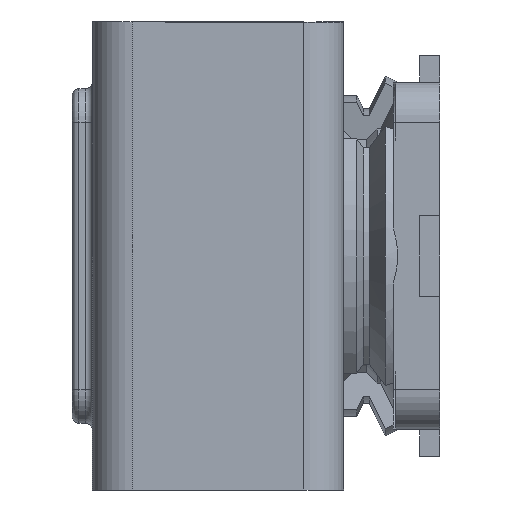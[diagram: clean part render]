
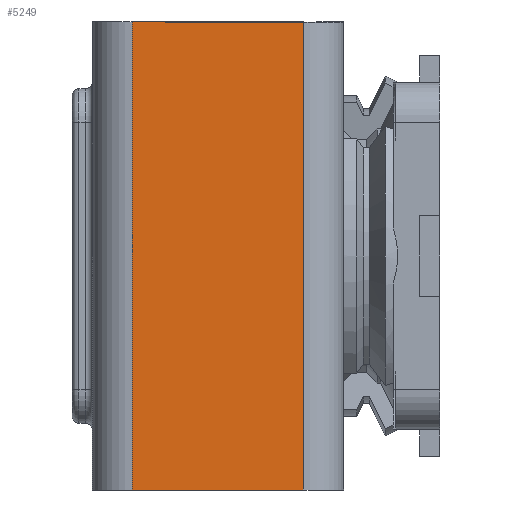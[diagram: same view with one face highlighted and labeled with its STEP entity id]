
A CAD part, left-side view. The second image highlights one B-rep face of the part: STEP entity #5249.
In plain terms, the highlighted planar face has unit normal (-1, 0, 0).
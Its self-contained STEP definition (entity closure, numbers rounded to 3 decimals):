
#897 = DIRECTION ( 'NONE',  ( 0., 0., -1. ) ) ;
#1926 = EDGE_CURVE ( 'NONE', #2757, #6838, #5244, .T. ) ;
#2135 = VECTOR ( 'NONE', #7742, 1000. ) ;
#2632 = CARTESIAN_POINT ( 'NONE',  ( -1.85, -1.08, 1.75 ) ) ;
#2696 = EDGE_CURVE ( 'NONE', #2757, #5227, #5304, .T. ) ;
#2730 = LINE ( 'NONE', #3582, #2135 ) ;
#2757 = VERTEX_POINT ( 'NONE', #8762 ) ;
#2951 = EDGE_CURVE ( 'NONE', #6838, #4431, #2730, .T. ) ;
#3419 = EDGE_CURVE ( 'NONE', #5227, #4431, #6041, .T. ) ;
#3582 = CARTESIAN_POINT ( 'NONE',  ( -1.85, -1.08, -1.75 ) ) ;
#3605 = CARTESIAN_POINT ( 'NONE',  ( -1.85, 0.2, -1.75 ) ) ;
#3818 = ORIENTED_EDGE ( 'NONE', *, *, #3419, .F. ) ;
#4049 = VECTOR ( 'NONE', #5217, 1000. ) ;
#4157 = ORIENTED_EDGE ( 'NONE', *, *, #2951, .T. ) ;
#4431 = VERTEX_POINT ( 'NONE', #2632 ) ;
#4843 = DIRECTION ( 'NONE',  ( 0., -1., 0. ) ) ;
#4911 = VECTOR ( 'NONE', #6122, 1000. ) ;
#5217 = DIRECTION ( 'NONE',  ( 0., -1., 0. ) ) ;
#5227 = VERTEX_POINT ( 'NONE', #7909 ) ;
#5244 = LINE ( 'NONE', #10627, #6074 ) ;
#5249 = ADVANCED_FACE ( 'NONE', ( #5685 ), #10643, .F. ) ;
#5304 = LINE ( 'NONE', #3605, #4911 ) ;
#5685 = FACE_OUTER_BOUND ( 'NONE', #7838, .T. ) ;
#5848 = DIRECTION ( 'NONE',  ( 1., 0., 0. ) ) ;
#6041 = LINE ( 'NONE', #9362, #4049 ) ;
#6074 = VECTOR ( 'NONE', #4843, 1000. ) ;
#6122 = DIRECTION ( 'NONE',  ( 0., 0., 1. ) ) ;
#6208 = CARTESIAN_POINT ( 'NONE',  ( -1.85, -1.08, -1.75 ) ) ;
#6772 = ORIENTED_EDGE ( 'NONE', *, *, #2696, .F. ) ;
#6838 = VERTEX_POINT ( 'NONE', #6208 ) ;
#7742 = DIRECTION ( 'NONE',  ( 0., 0., 1. ) ) ;
#7838 = EDGE_LOOP ( 'NONE', ( #9024, #4157, #3818, #6772 ) ) ;
#7909 = CARTESIAN_POINT ( 'NONE',  ( -1.85, 0.2, 1.75 ) ) ;
#8187 = CARTESIAN_POINT ( 'NONE',  ( -1.85, -1.18, -1.75 ) ) ;
#8762 = CARTESIAN_POINT ( 'NONE',  ( -1.85, 0.2, -1.75 ) ) ;
#9024 = ORIENTED_EDGE ( 'NONE', *, *, #1926, .T. ) ;
#9362 = CARTESIAN_POINT ( 'NONE',  ( -1.85, -1.18, 1.75 ) ) ;
#9949 = AXIS2_PLACEMENT_3D ( 'NONE', #8187, #5848, #897 ) ;
#10627 = CARTESIAN_POINT ( 'NONE',  ( -1.85, -1.18, -1.75 ) ) ;
#10643 = PLANE ( 'NONE',  #9949 ) ;
